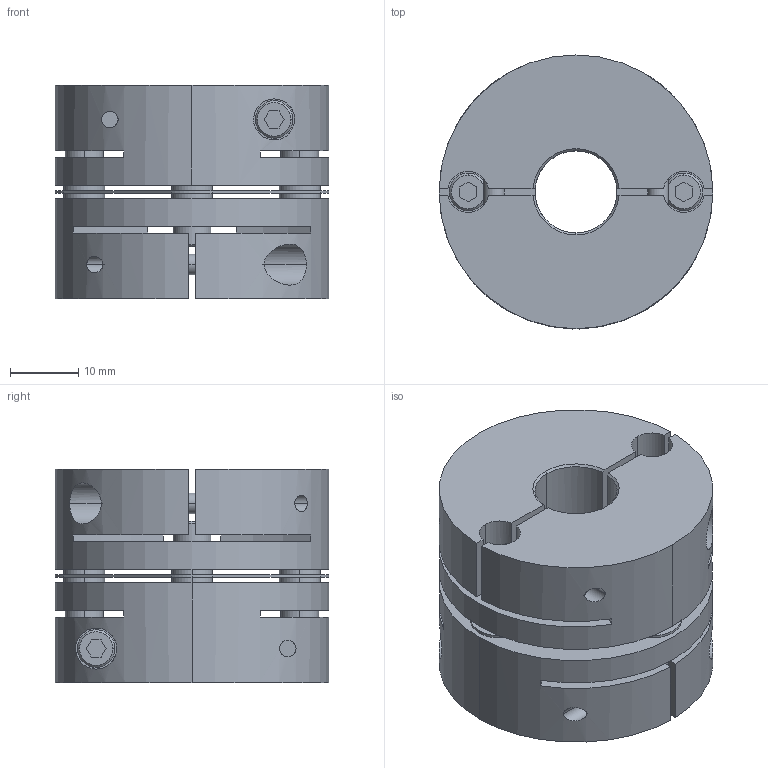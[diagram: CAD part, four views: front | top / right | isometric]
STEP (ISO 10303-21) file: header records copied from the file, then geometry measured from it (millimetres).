
FILE_DESCRIPTION((''),'2;1');
FILE_NAME('LAS-40C-12×16.stp','2011-08-11T08:59:19',(''),(''),'AutoCAD STEP 2000i','AutoCAD 2000i',', , ');
FILE_SCHEMA(('CONFIG_CONTROL_DESIGN'));
Length unit declared in the file: millimetre
Products named in the file (6): LAS-40C-10×15; 忣兜1; LA-4002-D15; LA-4002-D10-1; LA-4002-D10; LAS40-ITA
Assembly tree (5 placements, depth 2):
  LAS-40C-10×15
    忣兜1
    LA-4002-D15
    LA-4002-D10-1
    LA-4002-D10
    LAS40-ITA
Bounding box: 40 x 40 x 31.2 mm (x, y, z)
Volume: 29536.1 mm3; surface area: 15255.8 mm2
Topology: 1 solids, 1 shells, 236 faces, 624 edges, 408 vertices
Faces by surface type: plane 112, cylinder 96, cone 28
Entity records: 8177 total; most frequent: CARTESIAN_POINT 1970, DIRECTION 1304, ORIENTED_EDGE 1248, EDGE_CURVE 624, AXIS2_PLACEMENT_3D 478, VERTEX_POINT 408, VECTOR 348, LINE 348
